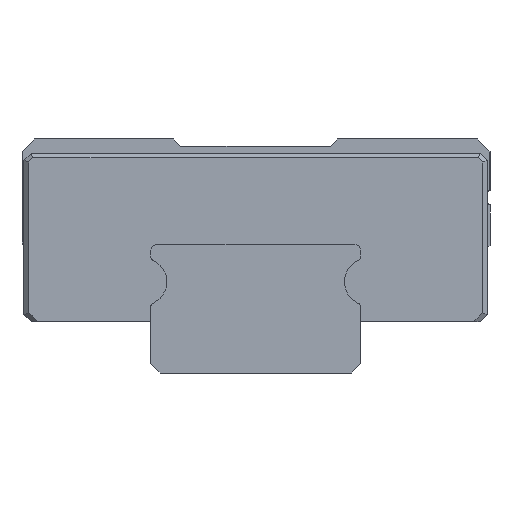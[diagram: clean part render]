
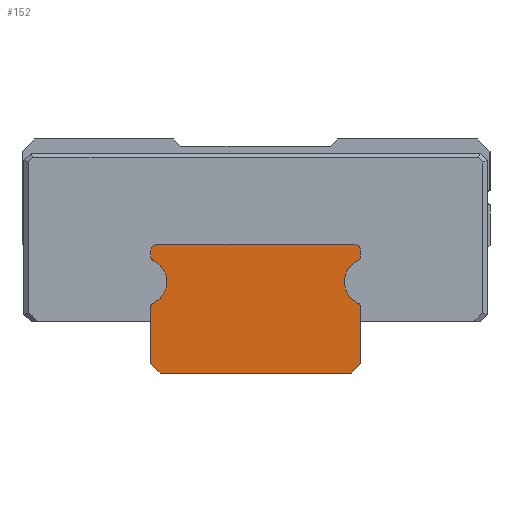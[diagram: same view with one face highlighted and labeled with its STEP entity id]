
A CAD part, front view. The second image highlights one B-rep face of the part: STEP entity #152.
In plain terms, the highlighted planar face has unit normal (0, -1, 0).
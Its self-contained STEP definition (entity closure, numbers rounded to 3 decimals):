
#152 = ADVANCED_FACE( '', ( #312 ), #313, .F. );
#312 = FACE_OUTER_BOUND( '', #572, .T. );
#313 = PLANE( '', #573 );
#572 = EDGE_LOOP( '', ( #1009, #1010, #1011, #1012, #1013, #1014, #1015, #1016, #1017, #1018, #1019, #1020, #1021, #1022, #1023, #1024 ) );
#573 = AXIS2_PLACEMENT_3D( '', #1025, #1026, #1027 );
#1009 = ORIENTED_EDGE( '', *, *, #1808, .F. );
#1010 = ORIENTED_EDGE( '', *, *, #1850, .F. );
#1011 = ORIENTED_EDGE( '', *, *, #1792, .F. );
#1012 = ORIENTED_EDGE( '', *, *, #1848, .F. );
#1013 = ORIENTED_EDGE( '', *, *, #1845, .F. );
#1014 = ORIENTED_EDGE( '', *, *, #1842, .F. );
#1015 = ORIENTED_EDGE( '', *, *, #1839, .F. );
#1016 = ORIENTED_EDGE( '', *, *, #1836, .F. );
#1017 = ORIENTED_EDGE( '', *, *, #1833, .F. );
#1018 = ORIENTED_EDGE( '', *, *, #1830, .F. );
#1019 = ORIENTED_EDGE( '', *, *, #1827, .F. );
#1020 = ORIENTED_EDGE( '', *, *, #1824, .F. );
#1021 = ORIENTED_EDGE( '', *, *, #1821, .F. );
#1022 = ORIENTED_EDGE( '', *, *, #1818, .F. );
#1023 = ORIENTED_EDGE( '', *, *, #1815, .F. );
#1024 = ORIENTED_EDGE( '', *, *, #1812, .F. );
#1025 = CARTESIAN_POINT( '', ( 124.288, 0., 4.992 ) );
#1026 = DIRECTION( '', ( 0., 1., 0. ) );
#1027 = DIRECTION( '', ( 1., 0., 0. ) );
#1792 = EDGE_CURVE( '', #2142, #2143, #2144, .T. );
#1808 = EDGE_CURVE( '', #2162, #2163, #2164, .T. );
#1812 = EDGE_CURVE( '', #2163, #2170, #2171, .T. );
#1815 = EDGE_CURVE( '', #2170, #2175, #2176, .T. );
#1818 = EDGE_CURVE( '', #2175, #2180, #2181, .T. );
#1821 = EDGE_CURVE( '', #2180, #2185, #2186, .T. );
#1824 = EDGE_CURVE( '', #2185, #2190, #2191, .T. );
#1827 = EDGE_CURVE( '', #2190, #2195, #2196, .T. );
#1830 = EDGE_CURVE( '', #2195, #2200, #2201, .T. );
#1833 = EDGE_CURVE( '', #2200, #2205, #2206, .T. );
#1836 = EDGE_CURVE( '', #2205, #2210, #2211, .T. );
#1839 = EDGE_CURVE( '', #2210, #2215, #2216, .T. );
#1842 = EDGE_CURVE( '', #2215, #2220, #2221, .T. );
#1845 = EDGE_CURVE( '', #2220, #2225, #2226, .T. );
#1848 = EDGE_CURVE( '', #2225, #2142, #2230, .T. );
#1850 = EDGE_CURVE( '', #2143, #2162, #2232, .T. );
#2142 = VERTEX_POINT( '', #2668 );
#2143 = VERTEX_POINT( '', #2669 );
#2144 = LINE( '', #2670, #2671 );
#2162 = VERTEX_POINT( '', #2692 );
#2163 = VERTEX_POINT( '', #2693 );
#2164 = LINE( '', #2694, #2695 );
#2170 = VERTEX_POINT( '', #2704 );
#2171 = CIRCLE( '', #2705, 0.2 );
#2175 = VERTEX_POINT( '', #2710 );
#2176 = CIRCLE( '', #2711, 1.006 );
#2180 = VERTEX_POINT( '', #2716 );
#2181 = CIRCLE( '', #2717, 0.2 );
#2185 = VERTEX_POINT( '', #2724 );
#2186 = LINE( '', #2725, #2726 );
#2190 = VERTEX_POINT( '', #2732 );
#2191 = LINE( '', #2733, #2734 );
#2195 = VERTEX_POINT( '', #2740 );
#2196 = LINE( '', #2741, #2742 );
#2200 = VERTEX_POINT( '', #2748 );
#2201 = LINE( '', #2749, #2750 );
#2205 = VERTEX_POINT( '', #2756 );
#2206 = LINE( '', #2757, #2758 );
#2210 = VERTEX_POINT( '', #2766 );
#2211 = CIRCLE( '', #2767, 0.2 );
#2215 = VERTEX_POINT( '', #2772 );
#2216 = CIRCLE( '', #2773, 1.006 );
#2220 = VERTEX_POINT( '', #2778 );
#2221 = CIRCLE( '', #2779, 0.2 );
#2225 = VERTEX_POINT( '', #2784 );
#2226 = LINE( '', #2785, #2786 );
#2230 = CIRCLE( '', #2792, 0.3 );
#2232 = CIRCLE( '', #2794, 0.3 );
#2668 = CARTESIAN_POINT( '', ( 115.813, 0., 5.5 ) );
#2669 = CARTESIAN_POINT( '', ( 124.188, 0., 5.5 ) );
#2670 = CARTESIAN_POINT( '', ( 115.813, 0., 5.5 ) );
#2671 = VECTOR( '', #3382, 1. );
#2692 = CARTESIAN_POINT( '', ( 124.488, 0., 5.2 ) );
#2693 = CARTESIAN_POINT( '', ( 124.488, 0., 4.992 ) );
#2694 = CARTESIAN_POINT( '', ( 124.488, 0., 5.2 ) );
#2695 = VECTOR( '', #3422, 1. );
#2704 = CARTESIAN_POINT( '', ( 124.372, 0., 4.811 ) );
#2705 = AXIS2_PLACEMENT_3D( '', #3426, #3427, #3428 );
#2710 = CARTESIAN_POINT( '', ( 124.372, 0., 2.989 ) );
#2711 = AXIS2_PLACEMENT_3D( '', #3433, #3434, #3435 );
#2716 = CARTESIAN_POINT( '', ( 124.488, 0., 2.808 ) );
#2717 = AXIS2_PLACEMENT_3D( '', #3440, #3441, #3442 );
#2724 = CARTESIAN_POINT( '', ( 124.5, 0., 0.412 ) );
#2725 = CARTESIAN_POINT( '', ( 124.5, 0., 2.808 ) );
#2726 = VECTOR( '', #3446, 1. );
#2732 = CARTESIAN_POINT( '', ( 124.088, 0., 0. ) );
#2733 = CARTESIAN_POINT( '', ( 124.488, 0., 0.4 ) );
#2734 = VECTOR( '', #3449, 1. );
#2740 = CARTESIAN_POINT( '', ( 115.913, 0., 0. ) );
#2741 = CARTESIAN_POINT( '', ( 124.088, 0., 0. ) );
#2742 = VECTOR( '', #3452, 1. );
#2748 = CARTESIAN_POINT( '', ( 115.5, 0., 0.413 ) );
#2749 = CARTESIAN_POINT( '', ( 115.913, 0., 0. ) );
#2750 = VECTOR( '', #3455, 1. );
#2756 = CARTESIAN_POINT( '', ( 115.5, 0., 2.808 ) );
#2757 = CARTESIAN_POINT( '', ( 115.5, 0., 0.4 ) );
#2758 = VECTOR( '', #3458, 1. );
#2766 = CARTESIAN_POINT( '', ( 115.628, 0., 2.989 ) );
#2767 = AXIS2_PLACEMENT_3D( '', #3460, #3461, #3462 );
#2772 = CARTESIAN_POINT( '', ( 115.628, 0., 4.811 ) );
#2773 = AXIS2_PLACEMENT_3D( '', #3467, #3468, #3469 );
#2778 = CARTESIAN_POINT( '', ( 115.513, 0., 4.992 ) );
#2779 = AXIS2_PLACEMENT_3D( '', #3474, #3475, #3476 );
#2784 = CARTESIAN_POINT( '', ( 115.513, 0., 5.2 ) );
#2785 = CARTESIAN_POINT( '', ( 115.513, 0., 4.992 ) );
#2786 = VECTOR( '', #3481, 1. );
#2792 = AXIS2_PLACEMENT_3D( '', #3484, #3485, #3486 );
#2794 = AXIS2_PLACEMENT_3D( '', #3490, #3491, #3492 );
#3382 = DIRECTION( '', ( 1., 0., 0. ) );
#3422 = DIRECTION( '', ( 0., 0., -1. ) );
#3426 = CARTESIAN_POINT( '', ( 124.288, 0., 4.992 ) );
#3427 = DIRECTION( '', ( 0., 1., 0. ) );
#3428 = DIRECTION( '', ( 1., 0., 0. ) );
#3433 = CARTESIAN_POINT( '', ( 124.8, 0., 3.9 ) );
#3434 = DIRECTION( '', ( 0., -1., 0. ) );
#3435 = DIRECTION( '', ( 1., 0., 0. ) );
#3440 = CARTESIAN_POINT( '', ( 124.288, 0., 2.808 ) );
#3441 = DIRECTION( '', ( 0., 1., 0. ) );
#3442 = DIRECTION( '', ( 1., 0., 0. ) );
#3446 = DIRECTION( '', ( 0., 0., -1. ) );
#3449 = DIRECTION( '', ( -0.707, 0., -0.707 ) );
#3452 = DIRECTION( '', ( -1., 0., 0. ) );
#3455 = DIRECTION( '', ( -0.707, 0., 0.707 ) );
#3458 = DIRECTION( '', ( 0., 0., 1. ) );
#3460 = CARTESIAN_POINT( '', ( 115.713, 0., 2.808 ) );
#3461 = DIRECTION( '', ( 0., 1., 0. ) );
#3462 = DIRECTION( '', ( 1., 0., 0. ) );
#3467 = CARTESIAN_POINT( '', ( 115.2, 0., 3.9 ) );
#3468 = DIRECTION( '', ( 0., -1., 0. ) );
#3469 = DIRECTION( '', ( 1., 0., 0. ) );
#3474 = CARTESIAN_POINT( '', ( 115.713, 0., 4.992 ) );
#3475 = DIRECTION( '', ( 0., 1., 0. ) );
#3476 = DIRECTION( '', ( 1., 0., 0. ) );
#3481 = DIRECTION( '', ( 0., 0., 1. ) );
#3484 = CARTESIAN_POINT( '', ( 115.813, 0., 5.2 ) );
#3485 = DIRECTION( '', ( 0., 1., 0. ) );
#3486 = DIRECTION( '', ( 1., 0., 0. ) );
#3490 = CARTESIAN_POINT( '', ( 124.188, 0., 5.2 ) );
#3491 = DIRECTION( '', ( 0., 1., 0. ) );
#3492 = DIRECTION( '', ( 1., 0., 0. ) );
